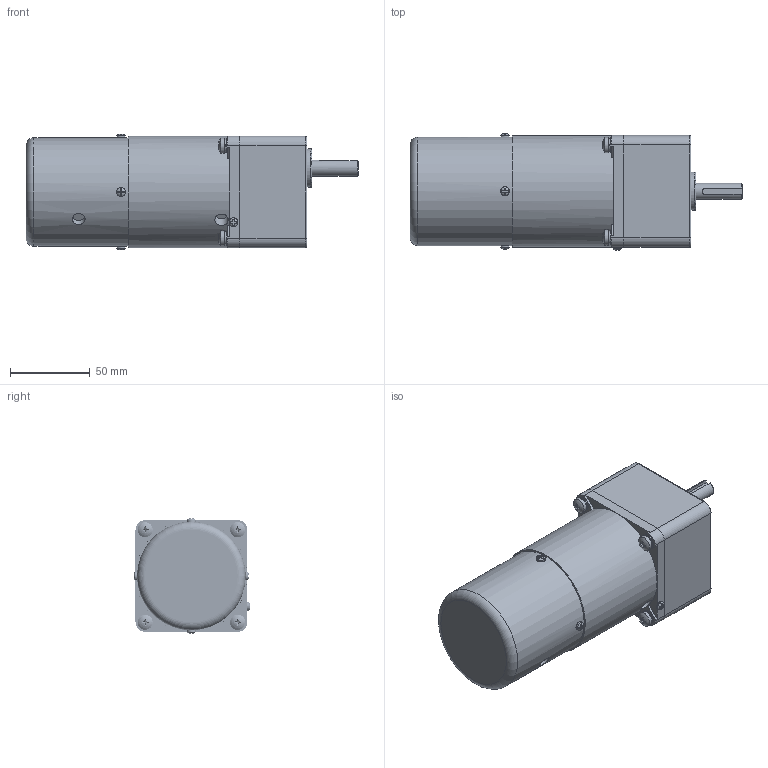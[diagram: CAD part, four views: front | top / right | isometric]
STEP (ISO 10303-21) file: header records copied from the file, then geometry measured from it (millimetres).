
FILE_DESCRIPTION(/* description */ (''),/* implementation_level */ '2;1');
FILE_NAME(/* name */ '70高箱L-15W刹车调速.stp',/* time_stamp */ '2022-10-31T09:33:15+08:00',/* author */ (''),/* organization */ (''),/* preprocessor_version */ 'ST-DEVELOPER v16.7',/* originating_system */ 'SIEMENS PLM Software NX 1899',/* authorisation */ '');
FILE_SCHEMA (('AP203_CONFIGURATION_CONTROLLED_3D_DESIGN_OF_MECHANICAL_PARTS_AND_ASSEMBLIES_MIM_LF { 1 0 10303 403 2 1 2}'));
Products named in the file (1): yf186188FEB6lc9q
Bounding box: 208 x 73.28 x 72.48 mm (x, y, z)
Volume: 716725.1 mm3; surface area: 69916.3 mm2
Topology: 14 solids, 15 shells, 355 faces, 912 edges, 608 vertices
Faces by surface type: plane 171, bspline 88, cylinder 69, torus 11, sphere 9, cone 7
Full cylindrical faces by diameter (mm): 2.7 x1, 4.826 x4, 5 x4, 5.3 x4, 5.6 x5, 6 x5, 8 x1, 8.3 x1, 9 x4, 9.5 x4, 10 x1, 24 x1, 63 x1, 66.6 x2, 68 x1, 70 x1
Entity records: 70895 total; most frequent: CARTESIAN_POINT 62890, ORIENTED_EDGE 1608, DIRECTION 1347, EDGE_CURVE 804, VERTEX_POINT 562, AXIS2_PLACEMENT_3D 536, EDGE_LOOP 461, ADVANCED_FACE 355
